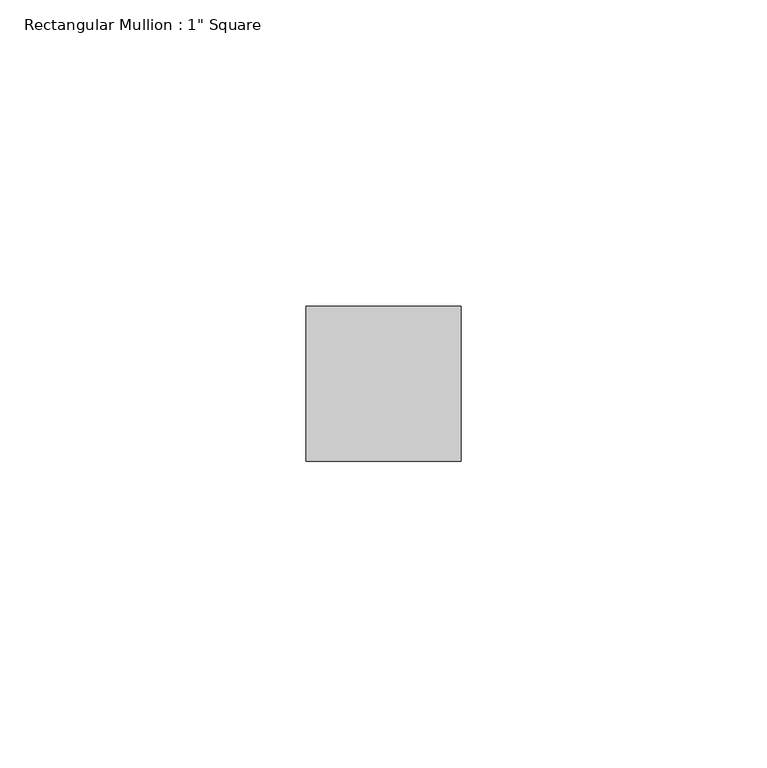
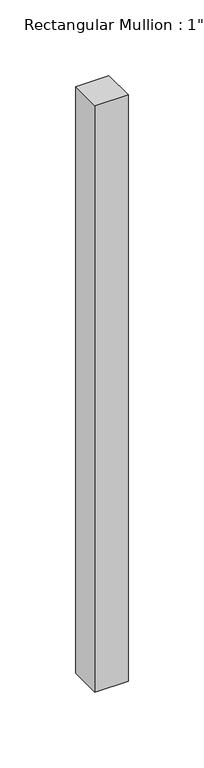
"""IFC4 building model written with IfcOpenShell, lengths in millimetres: member geometry."""

from ifc_helpers import new_model, si_unit, frame, origin, place, context, project, spatial, polyline, outline, extrude, source, transform, mapped, element, save


def member_4046197d(model_context):
    return source(origin(), model_context, "Body", "SweptSolid", [
        extrude(outline(polyline([(12.7, 12.7), (12.7, -12.7), (-12.7, -12.7), (-12.7, 12.7), (12.7, 12.7)])), frame((0.0, 0.0, -473.2262141), z_axis=(0.0, 0.0, 1.0), x_axis=(1.0, 0.0, 0.0)), (0.0, 0.0, 1.0), 473.2262141),
    ])


if __name__ == "__main__":
    model = new_model("IFC4")
    model_context = context("Model", 3, world=origin())
    ifc_project = project(units=[si_unit("LENGTHUNIT", "METRE", prefix="MILLI")], contexts=[model_context])
    site = spatial("IfcSite", under=ifc_project)
    building = spatial("IfcBuilding", under=site)
    placement = place(None, origin())
    member_shape = member_4046197d(model_context)
    element("IfcMember", 1, ObjectType="Rectangular Mullion : 1\" Square", at=placement, inside=building, context=model_context, shape_type="MappedRepresentation", body=[
        mapped(member_shape, transform((0.0, 0.0, 0.0), x_axis=(1.0, 0.0, 0.0), y_axis=(0.0, 1.0, 0.0), z_axis=(0.0, 0.0, 1.0))),
    ])
    save(model, "model.ifc")
